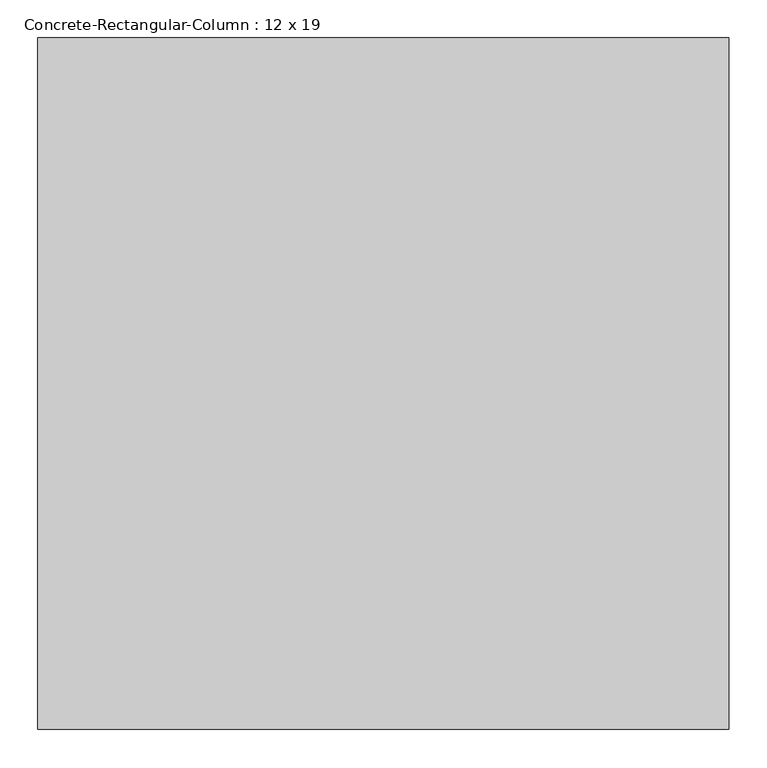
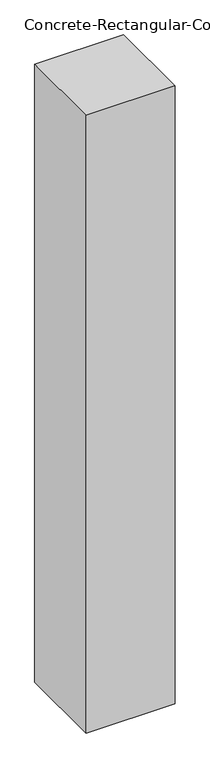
"""IFC4 building model written with IfcOpenShell, lengths in millimetres: column geometry, Concrete-Rectangular-Column : 12 x 19."""

from ifc_helpers import new_model, si_unit, origin, origin_with_axes, place, context, project, spatial, polyline, outline, extrude, source, transform, mapped, element, save


def concrete_rectangular_column_12_x_19_ccad1d0a(model_context):
    return source(origin(), model_context, "Body", "SweptSolid", [
        extrude(outline(polyline([(457.2, 457.2), (457.2, -457.2), (-457.2, -457.2), (-457.2, 457.2), (457.2, 457.2)])), origin_with_axes(), (0.0, 0.0, 1.0), 6705.6),
    ])


if __name__ == "__main__":
    model = new_model("IFC4")
    model_context = context("Model", 3, world=origin())
    ifc_project = project(units=[si_unit("LENGTHUNIT", "METRE", prefix="MILLI")], contexts=[model_context])
    site = spatial("IfcSite", under=ifc_project)
    building = spatial("IfcBuilding", under=site)
    placement = place(None, origin())
    concrete_rectangular_column_12_x_19_shape = concrete_rectangular_column_12_x_19_ccad1d0a(model_context)
    element("IfcColumn", 1, ObjectType="Concrete-Rectangular-Column : 12 x 19", at=placement, inside=building, context=model_context, shape_type="MappedRepresentation", body=[
        mapped(concrete_rectangular_column_12_x_19_shape, transform((0.0, 0.0, 0.0), x_axis=(1.0, 0.0, 0.0), y_axis=(0.0, 1.0, 0.0), z_axis=(0.0, 0.0, 1.0))),
    ])
    save(model, "model.ifc")
